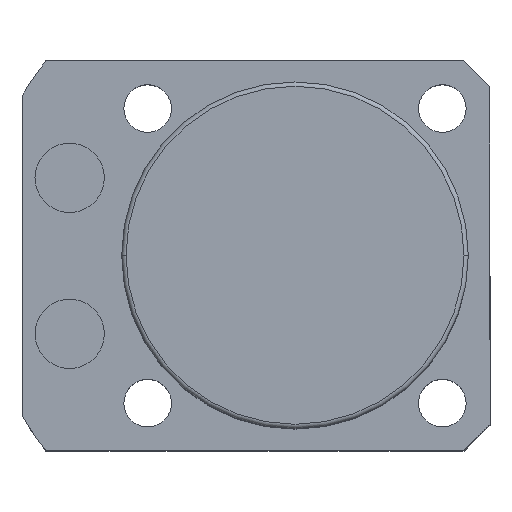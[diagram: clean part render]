
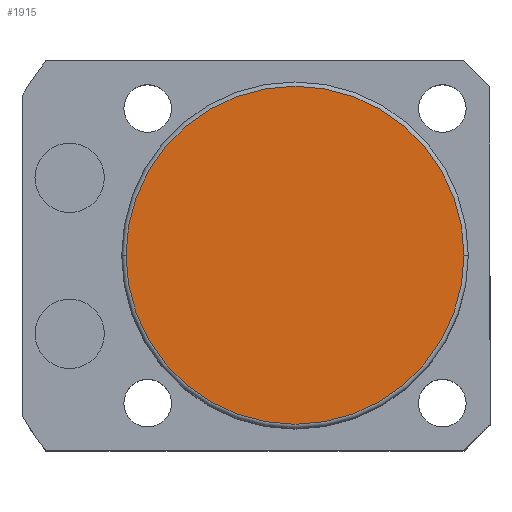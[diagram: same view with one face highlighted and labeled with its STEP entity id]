
A CAD part, top view. The second image highlights one B-rep face of the part: STEP entity #1915.
In plain terms, the highlighted planar face has unit normal (0, 0, 1).
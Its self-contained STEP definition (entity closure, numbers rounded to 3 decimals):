
#91 = CARTESIAN_POINT ( 'NONE',  ( 0., 0., 48.5 ) ) ;
#351 = DIRECTION ( 'NONE',  ( 0., 0., 1. ) ) ;
#373 = VERTEX_POINT ( 'NONE', #1038 ) ;
#483 = DIRECTION ( 'NONE',  ( 1., 0., 0. ) ) ;
#501 = AXIS2_PLACEMENT_3D ( 'NONE', #2494, #351, #1134 ) ;
#595 = CIRCLE ( 'NONE', #501, 19.5 ) ;
#602 = FACE_OUTER_BOUND ( 'NONE', #1147, .T. ) ;
#661 = CARTESIAN_POINT ( 'NONE',  ( 0., 0., 48.5 ) ) ;
#830 = EDGE_CURVE ( 'NONE', #1108, #373, #595, .T. ) ;
#847 = PLANE ( 'NONE',  #1962 ) ;
#966 = ORIENTED_EDGE ( 'NONE', *, *, #1892, .T. ) ;
#1031 = CIRCLE ( 'NONE', #1443, 19.5 ) ;
#1038 = CARTESIAN_POINT ( 'NONE',  ( -19.5, 0., 48.5 ) ) ;
#1108 = VERTEX_POINT ( 'NONE', #1311 ) ;
#1134 = DIRECTION ( 'NONE',  ( 1., 0., 0. ) ) ;
#1147 = EDGE_LOOP ( 'NONE', ( #1242, #966 ) ) ;
#1242 = ORIENTED_EDGE ( 'NONE', *, *, #830, .T. ) ;
#1311 = CARTESIAN_POINT ( 'NONE',  ( 19.5, 0., 48.5 ) ) ;
#1443 = AXIS2_PLACEMENT_3D ( 'NONE', #91, #2217, #1644 ) ;
#1618 = DIRECTION ( 'NONE',  ( 0., 0., 1. ) ) ;
#1644 = DIRECTION ( 'NONE',  ( 1., 0., 0. ) ) ;
#1892 = EDGE_CURVE ( 'NONE', #373, #1108, #1031, .T. ) ;
#1915 = ADVANCED_FACE ( 'NONE', ( #602 ), #847, .T. ) ;
#1962 = AXIS2_PLACEMENT_3D ( 'NONE', #661, #1618, #483 ) ;
#2217 = DIRECTION ( 'NONE',  ( 0., 0., 1. ) ) ;
#2494 = CARTESIAN_POINT ( 'NONE',  ( 0., 0., 48.5 ) ) ;
